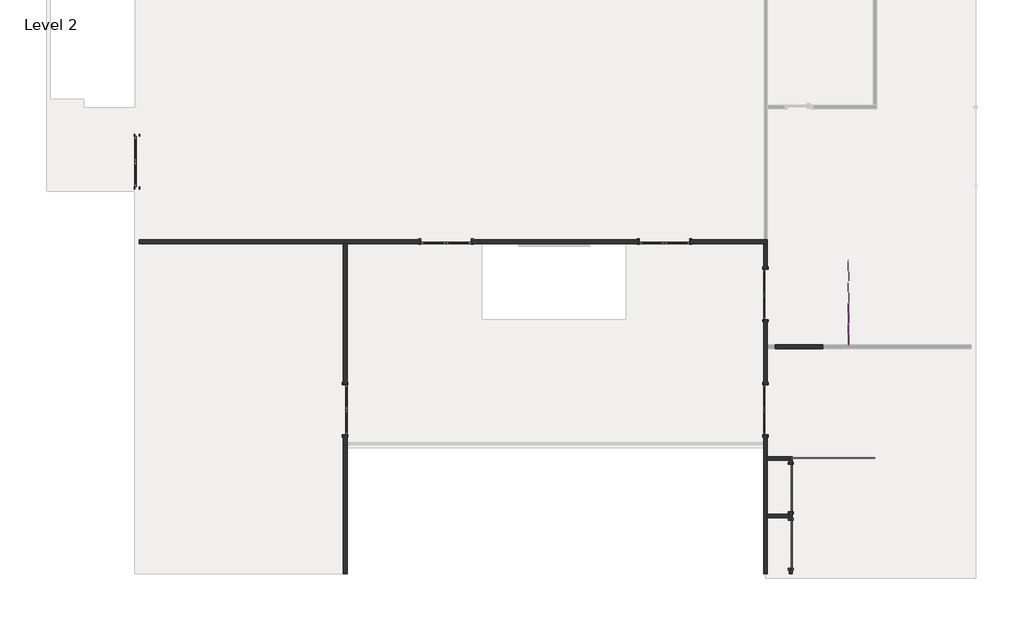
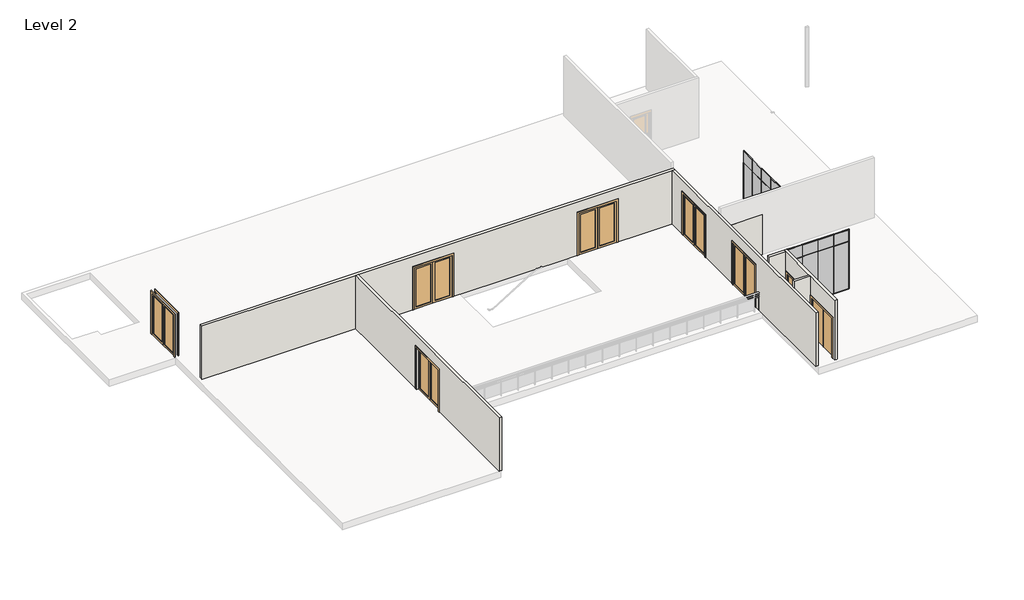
# One storey, part 1 of 2: 37 members, 16 plates, 8 doors, 7 walls.
"""IFC4 building model written with IfcOpenShell, lengths in millimetres."""

import ifcopenshell
import ifcopenshell.guid

model = None  # the IFC model being written
_history = None  # IfcOwnerHistory: only IFC2X3 demands one
_inside = {}  # id of a spatial element -> (the spatial element, [elements in it])
_under = {}  # id of a project, library or spatial element -> (it, [spatial elements below it])
_declared = {}  # id of a project -> (the project, [libraries it declares])
_typed = {}  # id of a type object -> (the type object, [elements of that type])
_made_of = {}  # id of a material, layer set ... -> (it, [elements and type objects made of it])


def new_model(schema):
    """Start an empty IFC model of exactly this schema.

    Asked for "IFC4X3", IfcOpenShell would pick the latest addendum, in which some entities
    have other attributes; the version numbers below select the first issue.
    IFC2X3 requires an IfcOwnerHistory on every rooted entity: one is made here for all.
    """
    global model, _history
    if schema == "IFC4X3":
        model = ifcopenshell.file(schema_version=(4, 3, 0, 0))
    else:
        model = ifcopenshell.file(schema=schema)
    _inside.clear()
    _under.clear()
    _declared.clear()
    _typed.clear()
    _made_of.clear()
    _history = None
    if model.schema == "IFC2X3":
        org = make("IfcOrganization", Name="unknown")
        user = make(
            "IfcPersonAndOrganization",
            ThePerson=make("IfcPerson", FamilyName="unknown"),
            TheOrganization=org,
        )
        app = make(
            "IfcApplication",
            ApplicationDeveloper=org,
            Version="unknown",
            ApplicationFullName="unknown",
            ApplicationIdentifier="unknown",
        )
        _history = make(
            "IfcOwnerHistory",
            OwningUser=user,
            OwningApplication=app,
            ChangeAction="ADDED",
            CreationDate=0,
        )
    return model


def make(cls, **values):
    """One entity of the class cls with the attributes given. An attribute that is None is left unset."""
    return model.create_entity(
        cls, **{name: value for name, value in values.items() if value is not None}
    )


def rooted(cls, **values):
    """An entity with a GlobalId (a new one), such as an element, a storey or a relation."""
    return make(cls, GlobalId=ifcopenshell.guid.new(), OwnerHistory=_history, **values)


def si_unit(unit_type, name, prefix=None):
    """IfcSIUnit, for example si_unit("LENGTHUNIT", "METRE", prefix="MILLI")."""
    return make("IfcSIUnit", UnitType=unit_type, Prefix=prefix, Name=name)


def assignment(units):
    """IfcUnitAssignment: the units of a project."""
    return None if units is None else make("IfcUnitAssignment", Units=units)


def point(xyz):
    """IfcCartesianPoint."""
    return None if xyz is None else make("IfcCartesianPoint", Coordinates=xyz)


def direction(xyz):
    """IfcDirection."""
    return None if xyz is None else make("IfcDirection", DirectionRatios=xyz)


def frame(location, z_axis=None, x_axis=None):
    """IfcAxis2Placement3D, a coordinate frame: its origin and axes. An axis left out is left unset."""
    return make(
        "IfcAxis2Placement3D",
        Location=point(location),
        Axis=direction(z_axis),
        RefDirection=direction(x_axis),
    )


def origin():
    """The frame at (0, 0, 0) with its axes left unset."""
    return frame((0.0, 0.0, 0.0))


def origin_with_axes():
    """The frame at (0, 0, 0) with the z axis (0, 0, 1) and the x axis (1, 0, 0) written out."""
    return frame((0.0, 0.0, 0.0), z_axis=(0.0, 0.0, 1.0), x_axis=(1.0, 0.0, 0.0))


def place(relative_to, where):
    """IfcLocalPlacement: puts the frame where relative to a parent placement (None: the world)."""
    return make(
        "IfcLocalPlacement", PlacementRelTo=relative_to, RelativePlacement=where
    )


def context(
    kind, dimensions, precision=None, world=None, true_north=None, identifier=None
):
    """IfcGeometricRepresentationContext, for example the 3D "Model" context."""
    return make(
        "IfcGeometricRepresentationContext",
        ContextIdentifier=identifier,
        ContextType=kind,
        CoordinateSpaceDimension=dimensions,
        Precision=precision,
        WorldCoordinateSystem=world,
        TrueNorth=true_north,
    )


def project(units=None, contexts=None):
    """IfcProject with its units and contexts."""
    return rooted(
        "IfcProject",
        Name="project",
        RepresentationContexts=contexts,
        UnitsInContext=assignment(units),
    )


def spatial(cls, under=None, at=None, **own):
    """A site, building, storey or space (cls), placed at a placement, below another one or the project."""
    s = rooted(cls, ObjectPlacement=at, **own)
    if under is not None:
        _under.setdefault(under.id(), (under, []))[1].append(s)
    return s


def polyline(points):
    """IfcPolyline through the points."""
    return make("IfcPolyline", Points=[point(p) for p in points])


def outline(outer, holes=None, kind="AREA"):
    """IfcArbitraryClosedProfileDef: a profile drawn as a closed curve; with holes, ...WithVoids."""
    if holes is None:
        return make("IfcArbitraryClosedProfileDef", ProfileType=kind, OuterCurve=outer)
    return make(
        "IfcArbitraryProfileDefWithVoids",
        ProfileType=kind,
        OuterCurve=outer,
        InnerCurves=holes,
    )


def extrude(swept, where, along, depth):
    """IfcExtrudedAreaSolid: the profile swept, set in the frame where, extruded along a direction by depth."""
    return make(
        "IfcExtrudedAreaSolid",
        SweptArea=swept,
        Position=where,
        ExtrudedDirection=direction(along),
        Depth=depth,
    )


def faces_of(points, faces, orient=None, outer=None):
    """IfcFace entities. A face is a list of loops; a loop is a list of indices into points, from 0.

    orient and outer hold one flag for each loop. By default every Orientation is true, the
    first loop of a face is its IfcFaceOuterBound and the others are IfcFaceBound.
    """
    made = []
    for i, loops in enumerate(faces):
        bounds = []
        for j, loop in enumerate(loops):
            is_outer = j == 0 if outer is None else outer[i][j]
            bounds.append(
                make(
                    "IfcFaceOuterBound" if is_outer else "IfcFaceBound",
                    Bound=make("IfcPolyLoop", Polygon=[points[k] for k in loop]),
                    Orientation=True if orient is None else orient[i][j],
                )
            )
        made.append(make("IfcFace", Bounds=bounds))
    return made


def faceted_brep(points, faces, orient=None, outer=None, voids=None):
    """IfcFacetedBrep: a solid bounded by flat faces; with voids (closed shells), ...WithVoids."""
    shared = [point(p) for p in points]
    hull = make("IfcClosedShell", CfsFaces=faces_of(shared, faces, orient, outer))
    if voids is None:
        return make("IfcFacetedBrep", Outer=hull)
    return make(
        "IfcFacetedBrepWithVoids",
        Outer=hull,
        Voids=[
            make(cls, CfsFaces=faces_of(shared, fs, o, b)) for cls, fs, o, b in voids
        ],
    )


def shape(context_of_items, identifier, shape_type, items):
    """IfcShapeRepresentation: the items that make up one representation, for example the "Body"."""
    return make(
        "IfcShapeRepresentation",
        ContextOfItems=context_of_items,
        RepresentationIdentifier=identifier,
        RepresentationType=shape_type,
        Items=items,
    )


def source(mapping_origin, context_of_items, identifier, shape_type, items):
    """IfcRepresentationMap: a shape defined once, which mapped items show again and again."""
    return make(
        "IfcRepresentationMap",
        MappingOrigin=mapping_origin,
        MappedRepresentation=shape(context_of_items, identifier, shape_type, items),
    )


def transform(
    local_origin,
    x_axis=None,
    y_axis=None,
    z_axis=None,
    scale=None,
    scale2=None,
    scale3=None,
    uniform=True,
):
    """IfcCartesianTransformationOperator3D, or its non-uniform kind. x_axis, y_axis, z_axis: its Axis1, 2, 3."""
    if uniform:
        return make(
            "IfcCartesianTransformationOperator3D",
            Axis1=direction(x_axis),
            Axis2=direction(y_axis),
            LocalOrigin=point(local_origin),
            Scale=scale,
            Axis3=direction(z_axis),
        )
    return make(
        "IfcCartesianTransformationOperator3DnonUniform",
        Axis1=direction(x_axis),
        Axis2=direction(y_axis),
        LocalOrigin=point(local_origin),
        Scale=scale,
        Axis3=direction(z_axis),
        Scale2=scale2,
        Scale3=scale3,
    )


def mapped(mapping_source, mapping_target):
    """IfcMappedItem: shows the shape of a source again, moved by a transform."""
    return make(
        "IfcMappedItem", MappingSource=mapping_source, MappingTarget=mapping_target
    )


def made_of(thing, what):
    """Note that an element or type object is made of a material, layer set ...; save() writes the relation."""
    if what is not None:
        _made_of.setdefault(what.id(), (what, []))[1].append(thing)
    return thing


def element(
    cls,
    number,
    at=None,
    inside=None,
    cuts=None,
    type_object=None,
    material=None,
    context=None,
    identifier="Body",
    shape_type=None,
    held_by="IfcProductDefinitionShape",
    body=None,
    shapes=None,
    **own,
):
    """One element of the class cls, such as IfcWall. Its Tag is "e" and its number.

    at: its placement. inside: the storey or other place that contains it. cuts: it is an
    opening in that element (IfcRelVoidsElement). A single representation is given by context,
    identifier, shape_type and body (its items); several are given by shapes. held_by: the class
    of the entity that holds the representations. save() writes the other relations.
    """
    e = rooted(cls, Tag="e%d" % number, ObjectPlacement=at, **own)
    if body is not None:
        shapes = [shape(context, identifier, shape_type, body)]
    if shapes is not None:
        e.Representation = make(held_by, Representations=shapes)
    if inside is not None:
        _inside.setdefault(inside.id(), (inside, []))[1].append(e)
    if cuts is not None:
        rooted(
            "IfcRelVoidsElement", RelatingBuildingElement=cuts, RelatedOpeningElement=e
        )
    if type_object is not None:
        _typed.setdefault(type_object.id(), (type_object, []))[1].append(e)
    return made_of(e, material)


def aggregate(whole, parts):
    """IfcRelAggregates: a whole, such as a stair, and the parts it consists of."""
    return rooted("IfcRelAggregates", RelatingObject=whole, RelatedObjects=parts)


def save(model, path):
    """Write the relations noted so far, then the file.

    IfcRelAggregates (storeys below a building ...), IfcRelContainedInSpatialStructure (elements
    in a storey), IfcRelDefinesByType, IfcRelAssociatesMaterial and IfcRelDeclares: one each for
    every whole, place, type object, material and project.
    """
    for whole, parts in _under.values():
        aggregate(whole, parts)
    for where, things in _inside.values():
        rooted(
            "IfcRelContainedInSpatialStructure",
            RelatedElements=things,
            RelatingStructure=where,
        )
    for kind, things in _typed.values():
        rooted("IfcRelDefinesByType", RelatedObjects=things, RelatingType=kind)
    for what, things in _made_of.values():
        rooted("IfcRelAssociatesMaterial", RelatedObjects=things, RelatingMaterial=what)
    for by, libraries in _declared.values():
        rooted("IfcRelDeclares", RelatingContext=by, RelatedDefinitions=libraries)
    model.write(path)


def door_7f6ceba9(model_context):
    return source(origin(), model_context, "Body", "SweptSolid", [
        extrude(outline(polyline([(2032.0, -863.6), (2032.0, 863.6), (0.0, 863.6), (0.0, 939.8), (2108.2, 939.8), (2108.2, -939.8), (0.0, -939.8), (0.0, -863.6), (2032.0, -863.6)])), frame((0.0, -87.3125, 0.0), z_axis=(0.0, 1.0, 0.0), x_axis=(0.0, 0.0, 1.0)), (0.0, 0.0, 1.0), 25.4),
        extrude(outline(polyline([(2032.0, -863.6), (2032.0, 863.6), (0.0, 863.6), (0.0, 939.8), (2108.2, 939.8), (2108.2, -939.8), (0.0, -939.8), (0.0, -863.6), (2032.0, -863.6)])), frame((0.0, 61.9125, 0.0), z_axis=(0.0, 1.0, 0.0), x_axis=(0.0, 0.0, 1.0)), (0.0, 0.0, 1.0), 25.4),
        extrude(outline(polyline([(0.0, 61.9125), (863.6, 61.9125), (863.6, 11.1125), (0.0, 11.1125), (0.0, 61.9125)])), origin_with_axes(), (0.0, 0.0, 1.0), 2032.0),
        extrude(outline(polyline([(-863.6, 61.9125), (0.0, 61.9125), (0.0, 11.1125), (-863.6, 11.1125), (-863.6, 61.9125)])), origin_with_axes(), (0.0, 0.0, 1.0), 2032.0),
    ])


def door_cb31edf2(model_context):
    return source(origin(), model_context, "Body", "SweptSolid", [
        extrude(outline(polyline([(2133.6, -914.4), (0.0, -914.4), (0.0, 0.0), (2133.6, 0.0), (2133.6, -914.4)]), holes=[polyline([(2032.0, -812.8), (2032.0, -101.6), (101.6, -101.6), (101.6, -812.8), (2032.0, -812.8)])]), frame((0.0, 29.36875, 0.0), z_axis=(0.0, 1.0, 0.0), x_axis=(0.0, 0.0, 1.0)), (0.0, 0.0, 1.0), 50.8),
        extrude(outline(polyline([(2133.6, 914.4), (2133.6, 0.0), (0.0, 0.0), (0.0, 914.4), (2133.6, 914.4)]), holes=[polyline([(2032.0, 812.8), (101.6, 812.8), (101.6, 101.6), (2032.0, 101.6), (2032.0, 812.8)])]), frame((0.0, 29.36875, 0.0), z_axis=(0.0, 1.0, 0.0), x_axis=(0.0, 0.0, 1.0)), (0.0, 0.0, 1.0), 50.8),
        extrude(outline(polyline([(101.6, 57.94375), (812.8, 57.94375), (812.8, 51.59375), (101.6, 51.59375), (101.6, 57.94375)])), frame((0.0, 0.0, 101.6), z_axis=(0.0, 0.0, 1.0), x_axis=(1.0, 0.0, 0.0)), (0.0, 0.0, 1.0), 1930.4),
        extrude(outline(polyline([(-812.8, 57.94375), (-101.6, 57.94375), (-101.6, 51.59375), (-812.8, 51.59375), (-812.8, 57.94375)])), frame((0.0, 0.0, 101.6), z_axis=(0.0, 0.0, 1.0), x_axis=(1.0, 0.0, 0.0)), (0.0, 0.0, 1.0), 1930.4),
        extrude(outline(polyline([(0.0, 990.6), (2209.8, 990.6), (2209.8, -990.6), (0.0, -990.6), (0.0, -914.4), (2133.6, -914.4), (2133.6, 914.4), (0.0, 914.4), (0.0, 990.6)])), frame((0.0, 80.16875, 0.0), z_axis=(0.0, 1.0, 0.0), x_axis=(0.0, 0.0, 1.0)), (0.0, 0.0, 1.0), 25.4),
        extrude(outline(polyline([(0.0, 990.6), (2209.8, 990.6), (2209.8, -990.6), (0.0, -990.6), (0.0, -914.4), (2133.6, -914.4), (2133.6, 914.4), (0.0, 914.4), (0.0, 990.6)])), frame((0.0, -100.80625, 0.0), z_axis=(0.0, 1.0, 0.0), x_axis=(0.0, 0.0, 1.0)), (0.0, 0.0, 1.0), 25.4),
    ])


def door_3f2f997e(model_context):
    return source(origin(), model_context, "Body", "SweptSolid", [
        extrude(outline(polyline([(2133.6, -914.4), (0.0, -914.4), (0.0, 0.0), (2133.6, 0.0), (2133.6, -914.4)]), holes=[polyline([(2032.0, -812.8), (2032.0, -101.6), (101.6, -101.6), (101.6, -812.8), (2032.0, -812.8)])]), frame((0.0, 21.43125, 0.0), z_axis=(0.0, 1.0, 0.0), x_axis=(0.0, 0.0, 1.0)), (0.0, 0.0, 1.0), 50.8),
        extrude(outline(polyline([(2133.6, 914.4), (2133.6, 0.0), (0.0, 0.0), (0.0, 914.4), (2133.6, 914.4)]), holes=[polyline([(2032.0, 812.8), (101.6, 812.8), (101.6, 101.6), (2032.0, 101.6), (2032.0, 812.8)])]), frame((0.0, 21.43125, 0.0), z_axis=(0.0, 1.0, 0.0), x_axis=(0.0, 0.0, 1.0)), (0.0, 0.0, 1.0), 50.8),
        extrude(outline(polyline([(101.6, 50.00625), (812.8, 50.00625), (812.8, 43.65625), (101.6, 43.65625), (101.6, 50.00625)])), frame((0.0, 0.0, 101.6), z_axis=(0.0, 0.0, 1.0), x_axis=(1.0, 0.0, 0.0)), (0.0, 0.0, 1.0), 1930.4),
        extrude(outline(polyline([(-812.8, 50.00625), (-101.6, 50.00625), (-101.6, 43.65625), (-812.8, 43.65625), (-812.8, 50.00625)])), frame((0.0, 0.0, 101.6), z_axis=(0.0, 0.0, 1.0), x_axis=(1.0, 0.0, 0.0)), (0.0, 0.0, 1.0), 1930.4),
        extrude(outline(polyline([(0.0, 990.6), (2209.8, 990.6), (2209.8, -990.6), (0.0, -990.6), (0.0, -914.4), (2133.6, -914.4), (2133.6, 914.4), (0.0, 914.4), (0.0, 990.6)])), frame((0.0, 72.23125, 0.0), z_axis=(0.0, 1.0, 0.0), x_axis=(0.0, 0.0, 1.0)), (0.0, 0.0, 1.0), 25.4),
        extrude(outline(polyline([(0.0, 990.6), (2209.8, 990.6), (2209.8, -990.6), (0.0, -990.6), (0.0, -914.4), (2133.6, -914.4), (2133.6, 914.4), (0.0, 914.4), (0.0, 990.6)])), frame((0.0, -92.86875, 0.0), z_axis=(0.0, 1.0, 0.0), x_axis=(0.0, 0.0, 1.0)), (0.0, 0.0, 1.0), 25.4),
    ])


def member_e3fb43e4(model_context):
    return source(origin(), model_context, "Body", "SweptSolid", [
        extrude(outline(polyline([(0.0, -19.05), (0.0, -44.45), (-25.4, -44.45), (-25.4, -19.05), (0.0, -19.05)])), frame((0.0, 0.0, -609.6), z_axis=(0.0, 0.0, 1.0), x_axis=(1.0, 0.0, 0.0)), (0.0, 0.0, 1.0), 609.6),
    ])


def member_bb4e90da(model_context):
    return source(origin(), model_context, "Body", "SweptSolid", [
        extrude(outline(polyline([(0.0, -19.05), (0.0, -44.45), (-25.4, -44.45), (-25.4, -19.05), (0.0, -19.05)])), frame((0.0, 0.0, -2438.4), z_axis=(0.0, 0.0, 1.0), x_axis=(1.0, 0.0, 0.0)), (0.0, 0.0, 1.0), 2438.4),
    ])


def member_29374509(model_context):
    return source(origin(), model_context, "Body", "SweptSolid", [
        extrude(outline(polyline([(12.7, -19.05), (12.7, -44.45), (-12.7, -44.45), (-12.7, -19.05), (12.7, -19.05)])), frame((0.0, 0.0, -2438.4), z_axis=(0.0, 0.0, 1.0), x_axis=(1.0, 0.0, 0.0)), (0.0, 0.0, 1.0), 2438.4),
    ])


def member_2936114a(model_context):
    return source(origin(), model_context, "Body", "SweptSolid", [
        extrude(outline(polyline([(12.7, -19.05), (12.7, -44.45), (-12.7, -44.45), (-12.7, -19.05), (12.7, -19.05)])), frame((0.0, 0.0, -609.6), z_axis=(0.0, 0.0, 1.0), x_axis=(1.0, 0.0, 0.0)), (0.0, 0.0, 1.0), 609.6),
    ])


def member_48c588a9(model_context):
    return source(origin(), model_context, "Body", "SweptSolid", [
        extrude(outline(polyline([(0.0, -19.05), (0.0, -44.45), (-25.4, -44.45), (-25.4, -19.05), (0.0, -19.05)])), frame((0.0, 0.0, -723.9000002), z_axis=(0.0, 0.0, 1.0), x_axis=(1.0, 0.0, 0.0)), (0.0, 0.0, 1.0), 723.9000002),
    ])


def member_bc21adc4(model_context):
    return source(origin(), model_context, "Body", "SweptSolid", [
        extrude(outline(polyline([(0.0, -19.05), (0.0, -44.45), (-25.4, -44.45), (-25.4, -19.05), (0.0, -19.05)])), frame((0.0, 0.0, -736.5999998), z_axis=(0.0, 0.0, 1.0), x_axis=(1.0, 0.0, 0.0)), (0.0, 0.0, 1.0), 736.5999998),
    ])


def member_eac71c60(model_context):
    return source(origin(), model_context, "Body", "SweptSolid", [
        extrude(outline(polyline([(12.7, -19.05), (12.7, -44.45), (-12.7, -44.45), (-12.7, -19.05), (12.7, -19.05)])), frame((0.0, 0.0, -723.9000002), z_axis=(0.0, 0.0, 1.0), x_axis=(1.0, 0.0, 0.0)), (0.0, 0.0, 1.0), 723.9000002),
    ])


def member_136d72b7(model_context):
    return source(origin(), model_context, "Body", "SweptSolid", [
        extrude(outline(polyline([(12.7, -19.05), (12.7, -44.45), (-12.7, -44.45), (-12.7, -19.05), (12.7, -19.05)])), frame((0.0, 0.0, -736.5999998), z_axis=(0.0, 0.0, 1.0), x_axis=(1.0, 0.0, 0.0)), (0.0, 0.0, 1.0), 736.5999998),
    ])


def member_fae06311(model_context):
    return source(origin(), model_context, "Body", "SweptSolid", [
        extrude(outline(polyline([(0.0, 44.45), (0.0, 19.05), (-25.4, 19.05), (-25.4, 44.45), (0.0, 44.45)])), frame((0.0, 0.0, -708.4218752), z_axis=(0.0, 0.0, 1.0), x_axis=(1.0, 0.0, 0.0)), (0.0, 0.0, 1.0), 708.4218752),
    ])


def member_8553a0c1(model_context):
    return source(origin(), model_context, "Body", "SweptSolid", [
        extrude(outline(polyline([(0.0, 44.45), (0.0, 19.05), (-25.4, 19.05), (-25.4, 44.45), (0.0, 44.45)])), frame((0.0, 0.0, -721.1218748), z_axis=(0.0, 0.0, 1.0), x_axis=(1.0, 0.0, 0.0)), (0.0, 0.0, 1.0), 721.1218748),
    ])


def member_dba39228(model_context):
    return source(origin(), model_context, "Body", "SweptSolid", [
        extrude(outline(polyline([(12.7, 44.45), (12.7, 19.05), (-12.7, 19.05), (-12.7, 44.45), (12.7, 44.45)])), frame((0.0, 0.0, -708.4218752), z_axis=(0.0, 0.0, 1.0), x_axis=(1.0, 0.0, 0.0)), (0.0, 0.0, 1.0), 708.4218752),
    ])


def member_7fa23940(model_context):
    return source(origin(), model_context, "Body", "SweptSolid", [
        extrude(outline(polyline([(12.7, 44.45), (12.7, 19.05), (-12.7, 19.05), (-12.7, 44.45), (12.7, 44.45)])), frame((0.0, 0.0, -721.1218748), z_axis=(0.0, 0.0, 1.0), x_axis=(1.0, 0.0, 0.0)), (0.0, 0.0, 1.0), 721.1218748),
    ])


def member_6bd78d2c(model_context):
    return source(origin(), model_context, "Body", "SweptSolid", [
        extrude(outline(polyline([(12.7, 44.45), (12.7, 19.05), (-12.7, 19.05), (-12.7, 44.45), (12.7, 44.45)])), frame((0.0, 0.0, -2438.4), z_axis=(0.0, 0.0, 1.0), x_axis=(1.0, 0.0, 0.0)), (0.0, 0.0, 1.0), 2438.4),
    ])


def member_bb70d6ce(model_context):
    return source(origin(), model_context, "Body", "SweptSolid", [
        extrude(outline(polyline([(12.7, 44.45), (12.7, 19.05), (-12.7, 19.05), (-12.7, 44.45), (12.7, 44.45)])), frame((0.0, 0.0, -609.6), z_axis=(0.0, 0.0, 1.0), x_axis=(1.0, 0.0, 0.0)), (0.0, 0.0, 1.0), 609.6),
    ])


def member_bb2431d7(model_context):
    return source(origin(), model_context, "Body", "SweptSolid", [
        extrude(outline(polyline([(0.0, 44.45), (0.0, 19.05), (-25.4, 19.05), (-25.4, 44.45), (0.0, 44.45)])), frame((0.0, 0.0, -2438.4), z_axis=(0.0, 0.0, 1.0), x_axis=(1.0, 0.0, 0.0)), (0.0, 0.0, 1.0), 2438.4),
    ])


def member_1634b5e1(model_context):
    return source(origin(), model_context, "Body", "SweptSolid", [
        extrude(outline(polyline([(0.0, 44.45), (0.0, 19.05), (-25.4, 19.05), (-25.4, 44.45), (0.0, 44.45)])), frame((0.0, 0.0, -609.6), z_axis=(0.0, 0.0, 1.0), x_axis=(1.0, 0.0, 0.0)), (0.0, 0.0, 1.0), 609.6),
    ])


def system_panel_glazed_687a9a7b(model_context):
    return source(origin(), model_context, "Body", "SweptSolid", [
        extrude(outline(polyline([(361.9500001, 19.05), (-361.9500001, 19.05), (-361.9500001, 44.45), (361.9500001, 44.45), (361.9500001, 19.05)])), origin_with_axes(), (0.0, 0.0, 1.0), 2400.3),
    ])


def system_panel_glazed_6323ba00(model_context):
    return source(origin(), model_context, "Body", "SweptSolid", [
        extrude(outline(polyline([(368.2999999, 19.05), (-368.2999999, 19.05), (-368.2999999, 44.45), (368.2999999, 44.45), (368.2999999, 19.05)])), origin_with_axes(), (0.0, 0.0, 1.0), 2400.3),
    ])


def system_panel_glazed_611e237e(model_context):
    return source(origin(), model_context, "Body", "SweptSolid", [
        extrude(outline(polyline([(361.9500001, 19.05), (-361.9500001, 19.05), (-361.9500001, 44.45), (361.9500001, 44.45), (361.9500001, 19.05)])), origin_with_axes(), (0.0, 0.0, 1.0), 571.5),
    ])


def system_panel_glazed_80c160bc(model_context):
    return source(origin(), model_context, "Body", "SweptSolid", [
        extrude(outline(polyline([(368.2999999, 19.05), (-368.2999999, 19.05), (-368.2999999, 44.45), (368.2999999, 44.45), (368.2999999, 19.05)])), origin_with_axes(), (0.0, 0.0, 1.0), 571.5),
    ])


def system_panel_glazed_a47317d6(model_context):
    return source(origin(), model_context, "Body", "SweptSolid", [
        extrude(outline(polyline([(354.2109376, -44.45), (-354.2109376, -44.45), (-354.2109376, -19.05), (354.2109376, -19.05), (354.2109376, -44.45)])), origin_with_axes(), (0.0, 0.0, 1.0), 2400.3),
    ])


def system_panel_glazed_dff9bb5a(model_context):
    return source(origin(), model_context, "Body", "SweptSolid", [
        extrude(outline(polyline([(360.5609374, -44.45), (-360.5609374, -44.45), (-360.5609374, -19.05), (360.5609374, -19.05), (360.5609374, -44.45)])), origin_with_axes(), (0.0, 0.0, 1.0), 2400.3),
    ])


def system_panel_glazed_8bb109a9(model_context):
    return source(origin(), model_context, "Body", "SweptSolid", [
        extrude(outline(polyline([(354.2109376, -44.45), (-354.2109376, -44.45), (-354.2109376, -19.05), (354.2109376, -19.05), (354.2109376, -44.45)])), origin_with_axes(), (0.0, 0.0, 1.0), 571.5),
    ])


def system_panel_glazed_55be3c9d(model_context):
    return source(origin(), model_context, "Body", "SweptSolid", [
        extrude(outline(polyline([(360.5609374, -44.45), (-360.5609374, -44.45), (-360.5609374, -19.05), (360.5609374, -19.05), (360.5609374, -44.45)])), origin_with_axes(), (0.0, 0.0, 1.0), 571.5),
    ])


model = new_model("IFC4")

# Units and contexts
model_context = context("Model", 3, world=origin())
ifc_project = project(units=[si_unit("LENGTHUNIT", "METRE", prefix="MILLI")], contexts=[model_context])

# Site, building, storey
site = spatial("IfcSite", under=ifc_project)
building = spatial("IfcBuilding", under=site)
storey = spatial("IfcBuildingStorey", under=building, Name="Level 2", Elevation=3048.0)

# Doors
placement = place(None, origin())
door_shape = door_7f6ceba9(model_context)
element("IfcDoor", 1, ObjectType="Door-Double-Flush_Panel : 68\" x 80\"", at=placement, inside=storey, context=model_context, shape_type="MappedRepresentation", body=[
    mapped(door_shape, transform((5445.482618, -4360.0266396, 3048.0), x_axis=(0.0, -1.0, 0.0), y_axis=(1.0, 0.0, 0.0), z_axis=(0.0, 0.0, 1.0))),
])
element("IfcDoor", 2, ObjectType="Door-Double-Flush_Panel : 68\" x 80\"", at=placement, inside=storey, context=model_context, shape_type="MappedRepresentation", body=[
    mapped(door_shape, transform((5445.482618, -2328.0266396, 3048.0), x_axis=(0.0, -1.0, 0.0), y_axis=(1.0, 0.0, 0.0), z_axis=(0.0, 0.0, 1.0))),
])
door_2_shape = door_cb31edf2(model_context)
element("IfcDoor", 3, ObjectType="Door-Double-Glass : 72\" x 84\"", at=placement, inside=storey, context=model_context, shape_type="MappedRepresentation", body=[
    mapped(door_2_shape, transform((-18248.748632, 9505.1983604, 3048.0), x_axis=(0.0, 1.0, 0.0), y_axis=(-1.0, 0.0, 0.0), z_axis=(0.0, 0.0, 1.0))),
])
door_3_shape = door_3f2f997e(model_context)
element("IfcDoor", 4, ObjectType="Door-Double-Glass : 72\" x 84\"", at=placement, inside=storey, context=model_context, shape_type="MappedRepresentation", body=[
    mapped(door_3_shape, transform((-10711.298632, 513.5983604, 3048.0), x_axis=(0.0, -1.0, 0.0), y_axis=(1.0, 0.0, 0.0), z_axis=(0.0, 0.0, 1.0))),
])
element("IfcDoor", 5, ObjectType="Door-Double-Glass : 72\" x 84\"", at=placement, inside=storey, context=model_context, shape_type="MappedRepresentation", body=[
    mapped(door_3_shape, transform((4533.463868, 513.5983604, 3048.0), x_axis=(0.0, 1.0, 0.0), y_axis=(-1.0, 0.0, 0.0), z_axis=(0.0, 0.0, 1.0))),
])
element("IfcDoor", 6, ObjectType="Door-Double-Glass : 72\" x 84\"", at=placement, inside=storey, context=model_context, shape_type="MappedRepresentation", body=[
    mapped(door_3_shape, transform((-7051.317382, 6611.9796104, 3048.0), x_axis=(-1.0, 0.0, 0.0), y_axis=(0.0, -1.0, 0.0), z_axis=(0.0, 0.0, 1.0))),
])
element("IfcDoor", 7, ObjectType="Door-Double-Glass : 72\" x 84\"", at=placement, inside=storey, context=model_context, shape_type="MappedRepresentation", body=[
    mapped(door_3_shape, transform((873.482618, 6611.9796104, 3048.0), x_axis=(-1.0, 0.0, 0.0), y_axis=(0.0, -1.0, 0.0), z_axis=(0.0, 0.0, 1.0))),
])
element("IfcDoor", 8, ObjectType="Door-Double-Glass : 72\" x 84\"", at=placement, inside=storey, context=model_context, shape_type="MappedRepresentation", body=[
    mapped(door_3_shape, transform((4533.463868, 4698.2483604, 3048.0), x_axis=(0.0, 1.0, 0.0), y_axis=(-1.0, 0.0, 0.0), z_axis=(0.0, 0.0, 1.0))),
])

# Members
member_shape = member_e3fb43e4(model_context)
element("IfcMember", 9, ObjectType="Rectangular Mullion : 1\" Square", at=placement, inside=storey, context=model_context, shape_type="MappedRepresentation", body=[
    mapped(member_shape, transform((7575.907618, 2869.4483604, 6096.0), x_axis=(0.0, -1.0, 0.0), y_axis=(1.0, 0.0, 0.0), z_axis=(0.0, 0.0, 1.0))),
])
member_2_shape = member_bb4e90da(model_context)
element("IfcMember", 10, ObjectType="Rectangular Mullion : 1\" Square", at=placement, inside=storey, context=model_context, shape_type="MappedRepresentation", body=[
    mapped(member_2_shape, transform((7575.907618, 2869.4483604, 5486.4), x_axis=(0.0, -1.0, 0.0), y_axis=(1.0, 0.0, 0.0), z_axis=(0.0, 0.0, 1.0))),
])
element("IfcMember", 11, ObjectType="Rectangular Mullion : 1\" Square", at=placement, inside=storey, context=model_context, shape_type="MappedRepresentation", body=[
    mapped(member_2_shape, transform((7575.907618, 5917.4483604, 3048.0), x_axis=(0.0, 1.0, 0.0), y_axis=(1.0, 0.0, 0.0), z_axis=(0.0, 0.0, -1.0))),
])
member_3_shape = member_29374509(model_context)
element("IfcMember", 12, ObjectType="Rectangular Mullion : 1\" Square", at=placement, inside=storey, context=model_context, shape_type="MappedRepresentation", body=[
    mapped(member_3_shape, transform((7575.907618, 3631.4483606, 3048.0), x_axis=(0.0, 1.0, 0.0), y_axis=(1.0, 0.0, 0.0), z_axis=(0.0, 0.0, -1.0))),
])
element("IfcMember", 13, ObjectType="Rectangular Mullion : 1\" Square", at=placement, inside=storey, context=model_context, shape_type="MappedRepresentation", body=[
    mapped(member_3_shape, transform((7575.907618, 4393.4483604, 3048.0), x_axis=(0.0, 1.0, 0.0), y_axis=(1.0, 0.0, 0.0), z_axis=(0.0, 0.0, -1.0))),
])
member_4_shape = member_2936114a(model_context)
element("IfcMember", 14, ObjectType="Rectangular Mullion : 1\" Square", at=placement, inside=storey, context=model_context, shape_type="MappedRepresentation", body=[
    mapped(member_4_shape, transform((7575.907618, 3631.4483606, 5486.4), x_axis=(0.0, 1.0, 0.0), y_axis=(1.0, 0.0, 0.0), z_axis=(0.0, 0.0, -1.0))),
])
element("IfcMember", 15, ObjectType="Rectangular Mullion : 1\" Square", at=placement, inside=storey, context=model_context, shape_type="MappedRepresentation", body=[
    mapped(member_4_shape, transform((7575.907618, 4393.4483604, 5486.4), x_axis=(0.0, 1.0, 0.0), y_axis=(1.0, 0.0, 0.0), z_axis=(0.0, 0.0, -1.0))),
])
member_5_shape = member_48c588a9(model_context)
element("IfcMember", 16, ObjectType="Rectangular Mullion : 1\" Square", at=placement, inside=storey, context=model_context, shape_type="MappedRepresentation", body=[
    mapped(member_5_shape, transform((7575.907618, 5892.0483604, 6096.0), x_axis=(0.0, 0.0, 1.0), y_axis=(1.0, 0.0, 0.0), z_axis=(0.0, 1.0, 0.0))),
])
element("IfcMember", 17, ObjectType="Rectangular Mullion : 1\" Square", at=placement, inside=storey, context=model_context, shape_type="MappedRepresentation", body=[
    mapped(member_5_shape, transform((7575.907618, 3618.7483606, 6096.0), x_axis=(0.0, 0.0, 1.0), y_axis=(1.0, 0.0, 0.0), z_axis=(0.0, 1.0, 0.0))),
])
element("IfcMember", 18, ObjectType="Rectangular Mullion : 1\" Square", at=placement, inside=storey, context=model_context, shape_type="MappedRepresentation", body=[
    mapped(member_5_shape, transform((7575.907618, 2894.8483604, 3048.0), x_axis=(0.0, 0.0, -1.0), y_axis=(1.0, 0.0, 0.0), z_axis=(0.0, -1.0, 0.0))),
])
member_6_shape = member_bc21adc4(model_context)
element("IfcMember", 19, ObjectType="Rectangular Mullion : 1\" Square", at=placement, inside=storey, context=model_context, shape_type="MappedRepresentation", body=[
    mapped(member_6_shape, transform((7575.907618, 4380.7483604, 6096.0), x_axis=(0.0, 0.0, 1.0), y_axis=(1.0, 0.0, 0.0), z_axis=(0.0, 1.0, 0.0))),
])
element("IfcMember", 20, ObjectType="Rectangular Mullion : 1\" Square", at=placement, inside=storey, context=model_context, shape_type="MappedRepresentation", body=[
    mapped(member_6_shape, transform((7575.907618, 3644.1483606, 3048.0), x_axis=(0.0, 0.0, -1.0), y_axis=(1.0, 0.0, 0.0), z_axis=(0.0, -1.0, 0.0))),
])
element("IfcMember", 21, ObjectType="Rectangular Mullion : 1\" Square", at=placement, inside=storey, context=model_context, shape_type="MappedRepresentation", body=[
    mapped(member_6_shape, transform((7575.907618, 4406.1483604, 3048.0), x_axis=(0.0, 0.0, -1.0), y_axis=(1.0, 0.0, 0.0), z_axis=(0.0, -1.0, 0.0))),
])
member_7_shape = member_eac71c60(model_context)
element("IfcMember", 22, ObjectType="Rectangular Mullion : 1\" Square", at=placement, inside=storey, context=model_context, shape_type="MappedRepresentation", body=[
    mapped(member_7_shape, transform((7575.907618, 3618.7483606, 5486.4), x_axis=(0.0, 0.0, 1.0), y_axis=(1.0, 0.0, 0.0), z_axis=(0.0, 1.0, 0.0))),
])
member_8_shape = member_136d72b7(model_context)
element("IfcMember", 23, ObjectType="Rectangular Mullion : 1\" Square", at=placement, inside=storey, context=model_context, shape_type="MappedRepresentation", body=[
    mapped(member_8_shape, transform((7575.907618, 4380.7483604, 5486.4), x_axis=(0.0, 0.0, 1.0), y_axis=(1.0, 0.0, 0.0), z_axis=(0.0, 1.0, 0.0))),
])
member_9_shape = member_fae06311(model_context)
element("IfcMember", 24, ObjectType="Rectangular Mullion : 1\" Square", at=placement, inside=storey, context=model_context, shape_type="MappedRepresentation", body=[
    mapped(member_9_shape, transform((8468.082618, -1199.3141396, 6096.0), x_axis=(0.0, 0.0, 1.0), y_axis=(0.0, -1.0, 0.0), z_axis=(1.0, 0.0, 0.0))),
])
element("IfcMember", 25, ObjectType="Rectangular Mullion : 1\" Square", at=placement, inside=storey, context=model_context, shape_type="MappedRepresentation", body=[
    mapped(member_9_shape, transform((6241.2169932, -1199.3141396, 6096.0), x_axis=(0.0, 0.0, 1.0), y_axis=(0.0, -1.0, 0.0), z_axis=(1.0, 0.0, 0.0))),
])
element("IfcMember", 26, ObjectType="Rectangular Mullion : 1\" Square", at=placement, inside=storey, context=model_context, shape_type="MappedRepresentation", body=[
    mapped(member_9_shape, transform((5532.795118, -1199.3141396, 3048.0), x_axis=(0.0, 0.0, -1.0), y_axis=(0.0, -1.0, 0.0), z_axis=(-1.0, 0.0, 0.0))),
])
element("IfcMember", 27, ObjectType="Rectangular Mullion : 1\" Square", at=placement, inside=storey, context=model_context, shape_type="MappedRepresentation", body=[
    mapped(member_9_shape, transform((7759.6607429, -1199.3141396, 3048.0), x_axis=(0.0, 0.0, -1.0), y_axis=(0.0, -1.0, 0.0), z_axis=(-1.0, 0.0, 0.0))),
])
member_10_shape = member_8553a0c1(model_context)
element("IfcMember", 28, ObjectType="Rectangular Mullion : 1\" Square", at=placement, inside=storey, context=model_context, shape_type="MappedRepresentation", body=[
    mapped(member_10_shape, transform((6987.738868, -1199.3141396, 6096.0), x_axis=(0.0, 0.0, 1.0), y_axis=(0.0, -1.0, 0.0), z_axis=(1.0, 0.0, 0.0))),
])
element("IfcMember", 29, ObjectType="Rectangular Mullion : 1\" Square", at=placement, inside=storey, context=model_context, shape_type="MappedRepresentation", body=[
    mapped(member_10_shape, transform((7734.2607429, -1199.3141396, 6096.0), x_axis=(0.0, 0.0, 1.0), y_axis=(0.0, -1.0, 0.0), z_axis=(1.0, 0.0, 0.0))),
])
element("IfcMember", 30, ObjectType="Rectangular Mullion : 1\" Square", at=placement, inside=storey, context=model_context, shape_type="MappedRepresentation", body=[
    mapped(member_10_shape, transform((6266.6169932, -1199.3141396, 3048.0), x_axis=(0.0, 0.0, -1.0), y_axis=(0.0, -1.0, 0.0), z_axis=(-1.0, 0.0, 0.0))),
])
element("IfcMember", 31, ObjectType="Rectangular Mullion : 1\" Square", at=placement, inside=storey, context=model_context, shape_type="MappedRepresentation", body=[
    mapped(member_10_shape, transform((7013.138868, -1199.3141396, 3048.0), x_axis=(0.0, 0.0, -1.0), y_axis=(0.0, -1.0, 0.0), z_axis=(-1.0, 0.0, 0.0))),
])
member_11_shape = member_dba39228(model_context)
element("IfcMember", 32, ObjectType="Rectangular Mullion : 1\" Square", at=placement, inside=storey, context=model_context, shape_type="MappedRepresentation", body=[
    mapped(member_11_shape, transform((6241.2169932, -1199.3141396, 5486.4), x_axis=(0.0, 0.0, 1.0), y_axis=(0.0, -1.0, 0.0), z_axis=(1.0, 0.0, 0.0))),
])
element("IfcMember", 33, ObjectType="Rectangular Mullion : 1\" Square", at=placement, inside=storey, context=model_context, shape_type="MappedRepresentation", body=[
    mapped(member_11_shape, transform((8468.082618, -1199.3141396, 5486.4), x_axis=(0.0, 0.0, 1.0), y_axis=(0.0, -1.0, 0.0), z_axis=(1.0, 0.0, 0.0))),
])
member_12_shape = member_7fa23940(model_context)
element("IfcMember", 34, ObjectType="Rectangular Mullion : 1\" Square", at=placement, inside=storey, context=model_context, shape_type="MappedRepresentation", body=[
    mapped(member_12_shape, transform((6987.738868, -1199.3141396, 5486.4), x_axis=(0.0, 0.0, 1.0), y_axis=(0.0, -1.0, 0.0), z_axis=(1.0, 0.0, 0.0))),
])
element("IfcMember", 35, ObjectType="Rectangular Mullion : 1\" Square", at=placement, inside=storey, context=model_context, shape_type="MappedRepresentation", body=[
    mapped(member_12_shape, transform((7734.2607429, -1199.3141396, 5486.4), x_axis=(0.0, 0.0, 1.0), y_axis=(0.0, -1.0, 0.0), z_axis=(1.0, 0.0, 0.0))),
])
member_13_shape = member_6bd78d2c(model_context)
element("IfcMember", 36, ObjectType="Rectangular Mullion : 1\" Square", at=placement, inside=storey, context=model_context, shape_type="MappedRepresentation", body=[
    mapped(member_13_shape, transform((6253.9169932, -1199.3141396, 3048.0), x_axis=(1.0, 0.0, 0.0), y_axis=(0.0, -1.0, 0.0), z_axis=(0.0, 0.0, -1.0))),
])
element("IfcMember", 37, ObjectType="Rectangular Mullion : 1\" Square", at=placement, inside=storey, context=model_context, shape_type="MappedRepresentation", body=[
    mapped(member_13_shape, transform((7000.438868, -1199.3141396, 3048.0), x_axis=(1.0, 0.0, 0.0), y_axis=(0.0, -1.0, 0.0), z_axis=(0.0, 0.0, -1.0))),
])
element("IfcMember", 38, ObjectType="Rectangular Mullion : 1\" Square", at=placement, inside=storey, context=model_context, shape_type="MappedRepresentation", body=[
    mapped(member_13_shape, transform((7746.9607429, -1199.3141396, 3048.0), x_axis=(1.0, 0.0, 0.0), y_axis=(0.0, -1.0, 0.0), z_axis=(0.0, 0.0, -1.0))),
])
member_14_shape = member_bb70d6ce(model_context)
element("IfcMember", 39, ObjectType="Rectangular Mullion : 1\" Square", at=placement, inside=storey, context=model_context, shape_type="MappedRepresentation", body=[
    mapped(member_14_shape, transform((6253.9169932, -1199.3141396, 5486.4), x_axis=(1.0, 0.0, 0.0), y_axis=(0.0, -1.0, 0.0), z_axis=(0.0, 0.0, -1.0))),
])
element("IfcMember", 40, ObjectType="Rectangular Mullion : 1\" Square", at=placement, inside=storey, context=model_context, shape_type="MappedRepresentation", body=[
    mapped(member_14_shape, transform((7000.438868, -1199.3141396, 5486.4), x_axis=(1.0, 0.0, 0.0), y_axis=(0.0, -1.0, 0.0), z_axis=(0.0, 0.0, -1.0))),
])
element("IfcMember", 41, ObjectType="Rectangular Mullion : 1\" Square", at=placement, inside=storey, context=model_context, shape_type="MappedRepresentation", body=[
    mapped(member_14_shape, transform((7746.9607429, -1199.3141396, 5486.4), x_axis=(1.0, 0.0, 0.0), y_axis=(0.0, -1.0, 0.0), z_axis=(0.0, 0.0, -1.0))),
])
member_15_shape = member_bb2431d7(model_context)
element("IfcMember", 42, ObjectType="Rectangular Mullion : 1\" Square", at=placement, inside=storey, context=model_context, shape_type="MappedRepresentation", body=[
    mapped(member_15_shape, transform((8493.482618, -1199.3141396, 3048.0), x_axis=(1.0, 0.0, 0.0), y_axis=(0.0, -1.0, 0.0), z_axis=(0.0, 0.0, -1.0))),
])
member_16_shape = member_1634b5e1(model_context)
element("IfcMember", 43, ObjectType="Rectangular Mullion : 1\" Square", at=placement, inside=storey, context=model_context, shape_type="MappedRepresentation", body=[
    mapped(member_16_shape, transform((5507.395118, -1199.3141396, 6096.0), x_axis=(-1.0, 0.0, 0.0), y_axis=(0.0, -1.0, 0.0), z_axis=(0.0, 0.0, 1.0))),
])
element("IfcMember", 44, ObjectType="Rectangular Mullion : 1\" Square", at=placement, inside=storey, context=model_context, shape_type="MappedRepresentation", body=[
    mapped(member_16_shape, transform((8493.482618, -1199.3141396, 5486.4), x_axis=(1.0, 0.0, 0.0), y_axis=(0.0, -1.0, 0.0), z_axis=(0.0, 0.0, -1.0))),
])
element("IfcMember", 45, ObjectType="Rectangular Mullion : 1\" Square", at=placement, inside=storey, context=model_context, shape_type="MappedRepresentation", body=[
    mapped(member_15_shape, transform((5507.395118, -1199.3141396, 5486.4), x_axis=(-1.0, 0.0, 0.0), y_axis=(0.0, -1.0, 0.0), z_axis=(0.0, 0.0, 1.0))),
])

# Plates
system_panel_glazed_shape = system_panel_glazed_687a9a7b(model_context)
element("IfcPlate", 46, ObjectType="System Panel : Glazed", at=placement, inside=storey, context=model_context, shape_type="MappedRepresentation", body=[
    mapped(system_panel_glazed_shape, transform((7575.907618, 3256.7983605, 3073.4), x_axis=(0.0, 1.0, 0.0), y_axis=(-1.0, 0.0, 0.0), z_axis=(0.0, 0.0, 1.0))),
])
element("IfcPlate", 47, ObjectType="System Panel : Glazed", at=placement, inside=storey, context=model_context, shape_type="MappedRepresentation", body=[
    mapped(system_panel_glazed_shape, transform((7575.907618, 5530.0983604, 3073.4), x_axis=(0.0, 1.0, 0.0), y_axis=(-1.0, 0.0, 0.0), z_axis=(0.0, 0.0, 1.0))),
])
system_panel_glazed_2_shape = system_panel_glazed_6323ba00(model_context)
element("IfcPlate", 48, ObjectType="System Panel : Glazed", at=placement, inside=storey, context=model_context, shape_type="MappedRepresentation", body=[
    mapped(system_panel_glazed_2_shape, transform((7575.907618, 4012.4483605, 3073.4), x_axis=(0.0, 1.0, 0.0), y_axis=(-1.0, 0.0, 0.0), z_axis=(0.0, 0.0, 1.0))),
])
element("IfcPlate", 49, ObjectType="System Panel : Glazed", at=placement, inside=storey, context=model_context, shape_type="MappedRepresentation", body=[
    mapped(system_panel_glazed_2_shape, transform((7575.907618, 4774.4483604, 3073.4), x_axis=(0.0, 1.0, 0.0), y_axis=(-1.0, 0.0, 0.0), z_axis=(0.0, 0.0, 1.0))),
])
system_panel_glazed_3_shape = system_panel_glazed_611e237e(model_context)
element("IfcPlate", 50, ObjectType="System Panel : Glazed", at=placement, inside=storey, context=model_context, shape_type="MappedRepresentation", body=[
    mapped(system_panel_glazed_3_shape, transform((7575.907618, 3256.7983605, 5499.1), x_axis=(0.0, 1.0, 0.0), y_axis=(-1.0, 0.0, 0.0), z_axis=(0.0, 0.0, 1.0))),
])
element("IfcPlate", 51, ObjectType="System Panel : Glazed", at=placement, inside=storey, context=model_context, shape_type="MappedRepresentation", body=[
    mapped(system_panel_glazed_3_shape, transform((7575.907618, 5530.0983604, 5499.1), x_axis=(0.0, 1.0, 0.0), y_axis=(-1.0, 0.0, 0.0), z_axis=(0.0, 0.0, 1.0))),
])
system_panel_glazed_4_shape = system_panel_glazed_80c160bc(model_context)
element("IfcPlate", 52, ObjectType="System Panel : Glazed", at=placement, inside=storey, context=model_context, shape_type="MappedRepresentation", body=[
    mapped(system_panel_glazed_4_shape, transform((7575.907618, 4012.4483605, 5499.1), x_axis=(0.0, 1.0, 0.0), y_axis=(-1.0, 0.0, 0.0), z_axis=(0.0, 0.0, 1.0))),
])
element("IfcPlate", 53, ObjectType="System Panel : Glazed", at=placement, inside=storey, context=model_context, shape_type="MappedRepresentation", body=[
    mapped(system_panel_glazed_4_shape, transform((7575.907618, 4774.4483604, 5499.1), x_axis=(0.0, 1.0, 0.0), y_axis=(-1.0, 0.0, 0.0), z_axis=(0.0, 0.0, 1.0))),
])
system_panel_glazed_5_shape = system_panel_glazed_a47317d6(model_context)
element("IfcPlate", 54, ObjectType="System Panel : Glazed", at=placement, inside=storey, context=model_context, shape_type="MappedRepresentation", body=[
    mapped(system_panel_glazed_5_shape, transform((5887.0060556, -1199.3141396, 3073.4), x_axis=(1.0, 0.0, 0.0), y_axis=(0.0, 1.0, 0.0), z_axis=(0.0, 0.0, 1.0))),
])
element("IfcPlate", 55, ObjectType="System Panel : Glazed", at=placement, inside=storey, context=model_context, shape_type="MappedRepresentation", body=[
    mapped(system_panel_glazed_5_shape, transform((8113.8716805, -1199.3141396, 3073.4), x_axis=(1.0, 0.0, 0.0), y_axis=(0.0, 1.0, 0.0), z_axis=(0.0, 0.0, 1.0))),
])
system_panel_glazed_6_shape = system_panel_glazed_dff9bb5a(model_context)
element("IfcPlate", 56, ObjectType="System Panel : Glazed", at=placement, inside=storey, context=model_context, shape_type="MappedRepresentation", body=[
    mapped(system_panel_glazed_6_shape, transform((6627.1779306, -1199.3141396, 3073.4), x_axis=(1.0, 0.0, 0.0), y_axis=(0.0, 1.0, 0.0), z_axis=(0.0, 0.0, 1.0))),
])
element("IfcPlate", 57, ObjectType="System Panel : Glazed", at=placement, inside=storey, context=model_context, shape_type="MappedRepresentation", body=[
    mapped(system_panel_glazed_6_shape, transform((7373.6998055, -1199.3141396, 3073.4), x_axis=(1.0, 0.0, 0.0), y_axis=(0.0, 1.0, 0.0), z_axis=(0.0, 0.0, 1.0))),
])
system_panel_glazed_7_shape = system_panel_glazed_8bb109a9(model_context)
element("IfcPlate", 58, ObjectType="System Panel : Glazed", at=placement, inside=storey, context=model_context, shape_type="MappedRepresentation", body=[
    mapped(system_panel_glazed_7_shape, transform((5887.0060556, -1199.3141396, 5499.1), x_axis=(1.0, 0.0, 0.0), y_axis=(0.0, 1.0, 0.0), z_axis=(0.0, 0.0, 1.0))),
])
element("IfcPlate", 59, ObjectType="System Panel : Glazed", at=placement, inside=storey, context=model_context, shape_type="MappedRepresentation", body=[
    mapped(system_panel_glazed_7_shape, transform((8113.8716805, -1199.3141396, 5499.1), x_axis=(1.0, 0.0, 0.0), y_axis=(0.0, 1.0, 0.0), z_axis=(0.0, 0.0, 1.0))),
])
system_panel_glazed_8_shape = system_panel_glazed_55be3c9d(model_context)
element("IfcPlate", 60, ObjectType="System Panel : Glazed", at=placement, inside=storey, context=model_context, shape_type="MappedRepresentation", body=[
    mapped(system_panel_glazed_8_shape, transform((6627.1779306, -1199.3141396, 5499.1), x_axis=(1.0, 0.0, 0.0), y_axis=(0.0, 1.0, 0.0), z_axis=(0.0, 0.0, 1.0))),
])
element("IfcPlate", 61, ObjectType="System Panel : Glazed", at=placement, inside=storey, context=model_context, shape_type="MappedRepresentation", body=[
    mapped(system_panel_glazed_8_shape, transform((7373.6998055, -1199.3141396, 5499.1), x_axis=(1.0, 0.0, 0.0), y_axis=(0.0, 1.0, 0.0), z_axis=(0.0, 0.0, 1.0))),
])

# Walls
element("IfcWall", 62, ObjectType="Interior - 4 7/8\" Partition (1-hr)", at=placement, inside=storey, context=model_context, shape_type="Brep", body=[
    faceted_brep([(5507.395118, -1199.3141396, 6096.0), (5507.395118, -5426.8266396, 6096.0), (5507.395118, -5426.8266396, 3048.0), (5507.395118, -5223.6266396, 3048.0), (5507.395118, -5223.6266396, 5080.0), (5507.395118, -3496.4266396, 5080.0), (5507.395118, -3496.4266396, 3048.0), (5507.395118, -3191.6266396, 3048.0), (5507.395118, -3191.6266396, 5080.0), (5507.395118, -1464.4266396, 5080.0), (5507.395118, -1464.4266396, 3048.0), (5507.395118, -1199.3141396, 3048.0), (5383.570118, -5426.8266396, 6096.0), (5383.570118, -3405.9391396, 6096.0), (5383.570118, -3282.1141396, 6096.0), (5383.570118, -1323.1391396, 6096.0), (5383.570118, -1199.3141396, 6096.0), (5383.570118, -1199.3141396, 3048.0), (5383.570118, -1323.1391396, 3048.0), (5383.570118, -1464.4266396, 3048.0), (5383.570118, -1464.4266396, 5080.0), (5383.570118, -3191.6266396, 5080.0), (5383.570118, -3191.6266396, 3048.0), (5383.570118, -3282.1141396, 3048.0), (5383.570118, -3405.9391396, 3048.0), (5383.570118, -3496.4266396, 3048.0), (5383.570118, -3496.4266396, 5080.0), (5383.570118, -5223.6266396, 5080.0), (5383.570118, -5223.6266396, 3048.0), (5383.570118, -5426.8266396, 3048.0)], [[[0, 1, 2, 3, 4, 5, 6, 7, 8, 9, 10, 11]], [[12, 13, 14, 15, 16, 17, 18, 19, 20, 21, 22, 23, 24, 25, 26, 27, 28, 29]], [[2, 29, 28, 3]], [[17, 11, 10, 19, 18]], [[6, 25, 24, 23, 22, 7]], [[1, 0, 16, 15, 14, 13, 12]], [[2, 1, 12, 29]], [[0, 11, 17, 16]], [[27, 4, 3, 28]], [[4, 27, 26, 5]], [[5, 26, 25, 6]], [[21, 8, 7, 22]], [[8, 21, 20, 9]], [[9, 20, 19, 10]]]),
])
element("IfcWall", 63, ObjectType="Interior - 4 7/8\" Partition (1-hr)", at=placement, inside=storey, context=model_context, shape_type="SweptSolid", body=[
    extrude(outline(polyline([(4600.932618, -1199.3141396), (5383.570118, -1199.3141396), (5383.570118, -1323.1391396), (4600.932618, -1323.1391396), (4600.932618, -1199.3141396)])), frame((0.0, 0.0, 3048.0), z_axis=(0.0, 0.0, 1.0), x_axis=(1.0, 0.0, 0.0)), (0.0, 0.0, 1.0), 3048.0),
])
element("IfcWall", 64, ObjectType="Interior - 4 7/8\" Partition (1-hr)", at=placement, inside=storey, context=model_context, shape_type="SweptSolid", body=[
    extrude(outline(polyline([(4600.932618, -3282.1141396), (5383.570118, -3282.1141396), (5383.570118, -3405.9391396), (4600.932618, -3405.9391396), (4600.932618, -3282.1141396)])), frame((0.0, 0.0, 3048.0), z_axis=(0.0, 0.0, 1.0), x_axis=(1.0, 0.0, 0.0)), (0.0, 0.0, 1.0), 3048.0),
])
element("IfcWall", 65, ObjectType="Interior - 5 1/2\" Partition (1-hr)", at=placement, inside=storey, context=model_context, shape_type="Brep", body=[
    faceted_brep([(-6136.917382, 6539.7483604, 3048.0), (-40.917382, 6539.7483604, 3048.0), (-40.917382, 6539.7483604, 5181.6), (1787.882618, 6539.7483604, 5181.6), (1787.882618, 6539.7483604, 3048.0), (4461.232618, 6539.7483604, 3048.0), (4600.932618, 6539.7483604, 3048.0), (4600.932618, 6539.7483604, 5772.15), (4461.232618, 6539.7483604, 5772.15), (-10639.067382, 6539.7483604, 5772.15), (-10778.767382, 6539.7483604, 5772.15), (-18173.342382, 6539.7483604, 5772.15), (-18173.342382, 6539.7483604, 3048.0), (-10778.767382, 6539.7483604, 3048.0), (-10639.067382, 6539.7483604, 3048.0), (-7965.717382, 6539.7483604, 3048.0), (-7965.717382, 6539.7483604, 5181.6), (-6136.917382, 6539.7483604, 5181.6), (-40.917382, 6679.4483604, 5181.6), (-40.917382, 6679.4483604, 3048.0), (-6136.917382, 6679.4483604, 3048.0), (-6136.917382, 6679.4483604, 5181.6), (-7965.717382, 6679.4483604, 5181.6), (-7965.717382, 6679.4483604, 3048.0), (-18173.342382, 6679.4483604, 3048.0), (-18173.342382, 6679.4483604, 5772.15), (4600.932618, 6679.4483604, 5772.15), (4600.932618, 6679.4483604, 3048.0), (1787.882618, 6679.4483604, 3048.0), (1787.882618, 6679.4483604, 5181.6)], [[[0, 1, 2, 3, 4, 5, 6, 7, 8, 9, 10, 11, 12, 13, 14, 15, 16, 17]], [[18, 19, 20, 21, 22, 23, 24, 25, 26, 27, 28, 29]], [[24, 23, 15, 14, 13, 12]], [[28, 27, 6, 5, 4]], [[20, 19, 1, 0]], [[11, 10, 9, 8, 7, 26, 25]], [[12, 11, 25, 24]], [[2, 1, 19, 18]], [[3, 2, 18, 29]], [[4, 3, 29, 28]], [[16, 15, 23, 22]], [[17, 16, 22, 21]], [[0, 17, 21, 20]], [[7, 6, 27, 26]]]),
])
element("IfcWall", 66, ObjectType="Interior - 5 1/2\" Partition (1-hr)", at=placement, inside=storey, context=model_context, shape_type="Brep", body=[
    faceted_brep([(4461.232618, -5426.8266396, 3048.0), (4461.232618, -5426.8266396, 5772.15), (4461.232618, 6539.7483604, 5772.15), (4461.232618, 6539.7483604, 3048.0), (4461.232618, 5612.6483604, 3048.0), (4461.232618, 5612.6483604, 5181.6), (4461.232618, 3783.8483604, 5181.6), (4461.232618, 3783.8483604, 3048.0), (4461.232618, 1427.9983604, 3048.0), (4461.232618, 1427.9983604, 5181.6), (4461.232618, -400.8016396, 5181.6), (4461.232618, -400.8016396, 3048.0), (4600.932618, -5426.8266396, 5772.15), (4600.932618, -5426.8266396, 3048.0), (4600.932618, -400.8016396, 3048.0), (4600.932618, -400.8016396, 5181.6), (4600.932618, 1427.9983604, 5181.6), (4600.932618, 1427.9983604, 3048.0), (4600.932618, 2729.7483604, 3048.0), (4600.932618, 2869.4483604, 3048.0), (4600.932618, 3783.8483604, 3048.0), (4600.932618, 3783.8483604, 5181.6), (4600.932618, 5612.6483604, 5181.6), (4600.932618, 5612.6483604, 3048.0), (4600.932618, 6539.7483604, 3048.0), (4600.932618, 6539.7483604, 5772.15), (4531.082618, -5426.8266396, 3048.0)], [[[0, 1, 2, 3, 4, 5, 6, 7, 8, 9, 10, 11]], [[12, 13, 14, 15, 16, 17, 18, 19, 20, 21, 22, 23, 24, 25]], [[17, 8, 7, 20, 19, 18]], [[13, 26, 0, 11, 14]], [[3, 24, 23, 4]], [[1, 0, 26, 13, 12]], [[2, 1, 12, 25]], [[9, 8, 17, 16]], [[10, 9, 16, 15]], [[11, 10, 15, 14]], [[22, 5, 4, 23]], [[5, 22, 21, 6]], [[6, 21, 20, 7]], [[3, 2, 25, 24]]]),
])
element("IfcWall", 67, ObjectType="Interior - 5 1/2\" Partition (1-hr)", at=placement, inside=storey, context=model_context, shape_type="Brep", body=[
    faceted_brep([(-10778.767382, -400.8016396, 5181.6), (-10778.767382, -400.8016396, 3048.0), (-10778.767382, -5426.8266396, 3048.0), (-10778.767382, -5426.8266396, 5772.15), (-10778.767382, 6539.7483604, 5772.15), (-10778.767382, 6539.7483604, 3048.0), (-10778.767382, 1427.9983604, 3048.0), (-10778.767382, 1427.9983604, 5181.6), (-10639.067382, -5426.8266396, 3048.0), (-10639.067382, -400.8016396, 3048.0), (-10639.067382, -400.8016396, 5181.6), (-10639.067382, 1427.9983604, 5181.6), (-10639.067382, 1427.9983604, 3048.0), (-10639.067382, 6539.7483604, 3048.0), (-10639.067382, 6539.7483604, 5772.15), (-10639.067382, -5426.8266396, 5772.15), (-10708.917382, -5426.8266396, 3048.0)], [[[0, 1, 2, 3, 4, 5, 6, 7]], [[8, 9, 10, 11, 12, 13, 14, 15]], [[2, 1, 9, 8, 16]], [[6, 5, 13, 12]], [[5, 4, 14, 13]], [[3, 2, 16, 8, 15]], [[4, 3, 15, 14]], [[10, 9, 1, 0]], [[11, 10, 0, 7]], [[12, 11, 7, 6]]]),
])
element("IfcWall", 68, ObjectType="Interior - 5 1/2\" Partition (1-hr)", at=placement, inside=storey, context=model_context, shape_type="SweptSolid", body=[
    extrude(outline(polyline([(6613.882618, 2869.4483604), (6613.882618, 2729.7483604), (4886.682618, 2729.7483604), (4886.682618, 2869.4483604), (6613.882618, 2869.4483604)])), frame((0.0, 0.0, 3048.0), z_axis=(0.0, 0.0, 1.0), x_axis=(1.0, 0.0, 0.0)), (0.0, 0.0, 1.0), 2032.0),
])

save(model, "model.ifc")
